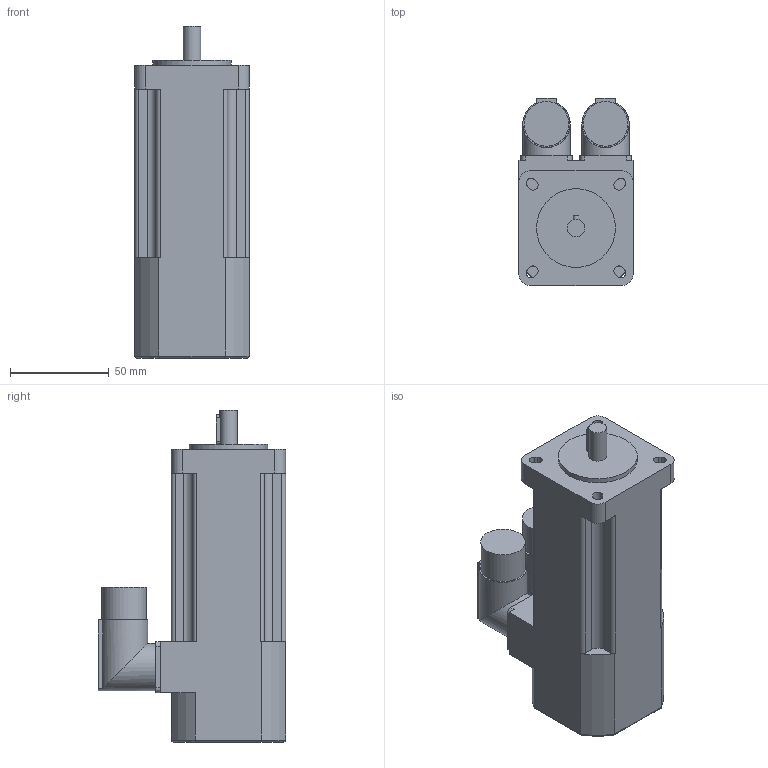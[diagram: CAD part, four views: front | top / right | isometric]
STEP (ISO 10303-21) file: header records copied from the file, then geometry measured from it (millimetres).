
FILE_DESCRIPTION(/* description */ (''),/* implementation_level */ '2;1');
FILE_NAME(/* name */ '\\Lafnas01\disegni\Archivi Lafert\3D\CAD 3D\MODELLI\Assiemi clienti\Serad\Modelli 3D Serad\B28Q\Encoder\With Brake\B28D5Qxx6BRx2033.ipt.stp',/* time_stamp */ '2015-09-07T10:48:21+02:00',/* author */ ('Pastrello Ylenia'),/* organization */ (''),/* preprocessor_version */ 'ST-DEVELOPER v15.6',/* originating_system */ 'Autodesk Inventor 2015',/* authorisation */ '');
FILE_SCHEMA (('CONFIG_CONTROL_DESIGN','AUTOMOTIVE_DESIGN { 1 0 10303 214 3 1 1 }'));
Length unit declared in the file: millimetre
Products named in the file (1): B28D5Qxx6BRx2033
Bounding box: 58 x 95 x 168.5 mm (x, y, z)
Volume: 513708.7 mm3; surface area: 51440.7 mm2
Topology: 1 solids, 1 shells, 135 faces, 364 edges, 237 vertices
Faces by surface type: plane 71, cylinder 60, torus 4
Full cylindrical faces by diameter (mm): 9 x1, 22.7 x2, 24 x2, 40 x1
Entity records: 4341 total; most frequent: CARTESIAN_POINT 864, DIRECTION 737, ORIENTED_EDGE 712, EDGE_CURVE 355, AXIS2_PLACEMENT_3D 258, VERTEX_POINT 235, LINE 221, VECTOR 221
